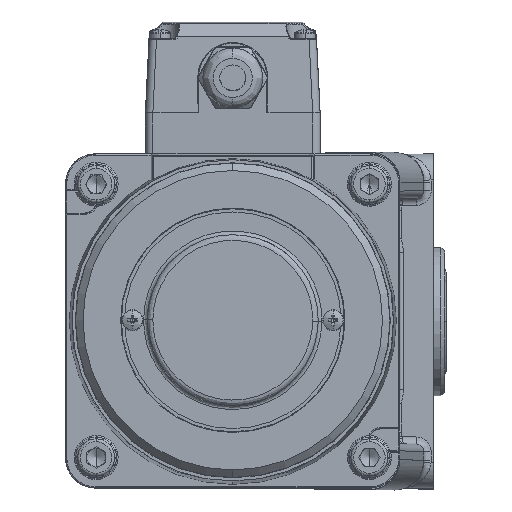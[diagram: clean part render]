
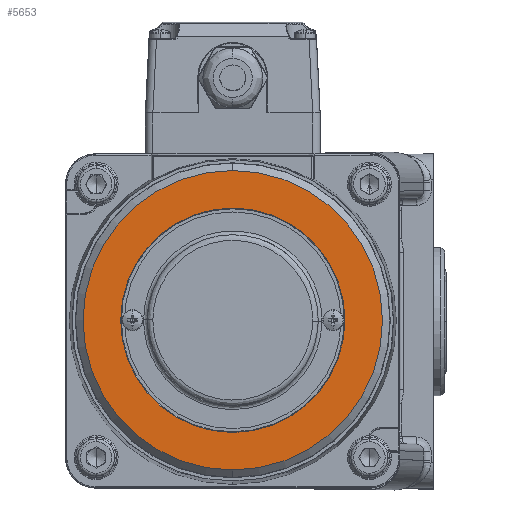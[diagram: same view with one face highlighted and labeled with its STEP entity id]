
A CAD part, top view. The second image highlights one B-rep face of the part: STEP entity #5653.
In plain terms, the highlighted planar face has unit normal (0, 0, 1) as drawn and (0, 0, -1) by its records, which use the part's own axes.
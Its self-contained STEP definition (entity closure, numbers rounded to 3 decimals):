
#367 = CARTESIAN_POINT ( 'NONE',  ( -2.8, -8.181, 89.414 ) ) ;
#3305 = AXIS2_PLACEMENT_3D ( 'NONE', #6069, #113894, #24867 ) ;
#5653 = ADVANCED_FACE ( 'NONE', ( #65538, #28453 ), #74958, .F. ) ;
#5734 = DIRECTION ( 'NONE',  ( 0., 0., -1. ) ) ;
#6069 = CARTESIAN_POINT ( 'NONE',  ( -2.8, -8.181, 89.414 ) ) ;
#10328 = EDGE_LOOP ( 'NONE', ( #23573, #95173 ) ) ;
#10982 = EDGE_CURVE ( 'NONE', #56188, #28553, #18858, .T. ) ;
#12321 = ORIENTED_EDGE ( 'NONE', *, *, #69314, .F. ) ;
#18858 = CIRCLE ( 'NONE', #56522, 40.3 ) ;
#19516 = CARTESIAN_POINT ( 'NONE',  ( 27.36, -8.181, 89.414 ) ) ;
#20316 = VERTEX_POINT ( 'NONE', #65279 ) ;
#20409 = ORIENTED_EDGE ( 'NONE', *, *, #10982, .F. ) ;
#23387 = CARTESIAN_POINT ( 'NONE',  ( -2.8, -8.181, 89.414 ) ) ;
#23573 = ORIENTED_EDGE ( 'NONE', *, *, #52184, .F. ) ;
#24867 = DIRECTION ( 'NONE',  ( 1., 0., 0. ) ) ;
#26847 = CIRCLE ( 'NONE', #55072, 30.16 ) ;
#28453 = FACE_BOUND ( 'NONE', #10328, .T. ) ;
#28553 = VERTEX_POINT ( 'NONE', #90018 ) ;
#30156 = CIRCLE ( 'NONE', #90393, 30.16 ) ;
#31069 = DIRECTION ( 'NONE',  ( -1., 0., 0. ) ) ;
#33627 = EDGE_LOOP ( 'NONE', ( #20409, #12321 ) ) ;
#34796 = VERTEX_POINT ( 'NONE', #19516 ) ;
#38448 = DIRECTION ( 'NONE',  ( 1., 0., 0. ) ) ;
#48970 = CARTESIAN_POINT ( 'NONE',  ( -2.8, -8.181, 89.414 ) ) ;
#49271 = AXIS2_PLACEMENT_3D ( 'NONE', #48970, #82679, #38448 ) ;
#50417 = CARTESIAN_POINT ( 'NONE',  ( -2.8, -8.181, 89.414 ) ) ;
#52184 = EDGE_CURVE ( 'NONE', #20316, #34796, #30156, .T. ) ;
#54047 = CIRCLE ( 'NONE', #3305, 40.3 ) ;
#55072 = AXIS2_PLACEMENT_3D ( 'NONE', #23387, #5734, #58135 ) ;
#56188 = VERTEX_POINT ( 'NONE', #99145 ) ;
#56522 = AXIS2_PLACEMENT_3D ( 'NONE', #367, #79945, #108803 ) ;
#58135 = DIRECTION ( 'NONE',  ( -1., 0., 0. ) ) ;
#65279 = CARTESIAN_POINT ( 'NONE',  ( -32.961, -8.181, 89.414 ) ) ;
#65538 = FACE_OUTER_BOUND ( 'NONE', #33627, .T. ) ;
#69314 = EDGE_CURVE ( 'NONE', #28553, #56188, #54047, .T. ) ;
#74958 = PLANE ( 'NONE',  #49271 ) ;
#79945 = DIRECTION ( 'NONE',  ( 0., 0., 1. ) ) ;
#82679 = DIRECTION ( 'NONE',  ( 0., 0., 1. ) ) ;
#90018 = CARTESIAN_POINT ( 'NONE',  ( -43.1, -8.181, 89.414 ) ) ;
#90393 = AXIS2_PLACEMENT_3D ( 'NONE', #50417, #103552, #31069 ) ;
#95173 = ORIENTED_EDGE ( 'NONE', *, *, #105783, .F. ) ;
#99145 = CARTESIAN_POINT ( 'NONE',  ( 37.499, -8.181, 89.414 ) ) ;
#103552 = DIRECTION ( 'NONE',  ( 0., 0., -1. ) ) ;
#105783 = EDGE_CURVE ( 'NONE', #34796, #20316, #26847, .T. ) ;
#108803 = DIRECTION ( 'NONE',  ( 1., 0., 0. ) ) ;
#113894 = DIRECTION ( 'NONE',  ( 0., 0., 1. ) ) ;
